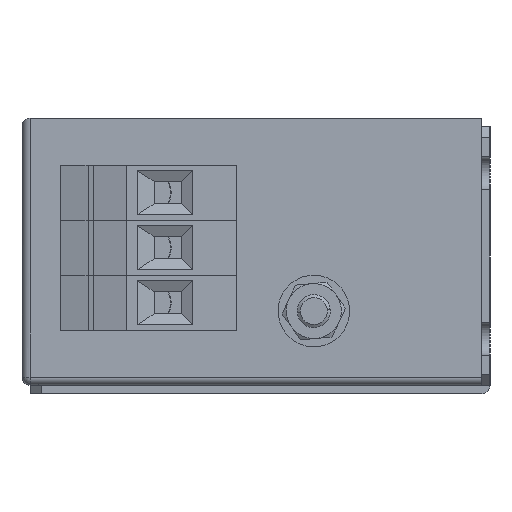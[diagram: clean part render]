
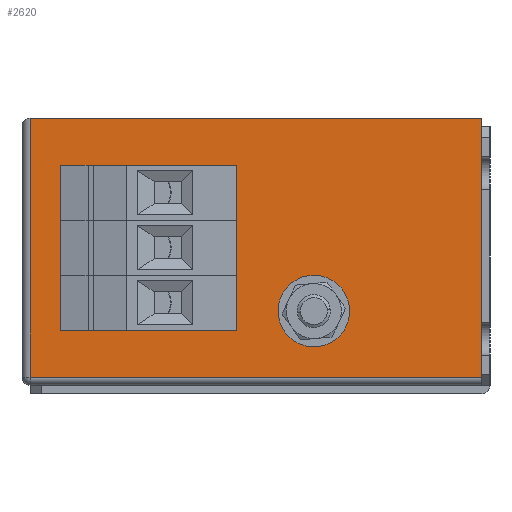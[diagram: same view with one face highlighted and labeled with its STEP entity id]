
A CAD part, left-side view. The second image highlights one B-rep face of the part: STEP entity #2620.
In plain terms, the highlighted planar face has unit normal (-1, 0, 0).
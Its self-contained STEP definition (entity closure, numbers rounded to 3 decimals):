
#2533 = EDGE_CURVE ( 'NONE', #2534, #2535, #7124, .T. ) ;
#2534 = VERTEX_POINT ( 'NONE', #7120 ) ;
#2535 = VERTEX_POINT ( 'NONE', #7119 ) ;
#2536 = EDGE_CURVE ( 'NONE', #2566, #2537, #7118, .T. ) ;
#2537 = VERTEX_POINT ( 'NONE', #7113 ) ;
#2549 = EDGE_CURVE ( 'NONE', #2550, #2606, #7152, .T. ) ;
#2550 = VERTEX_POINT ( 'NONE', #7148 ) ;
#2552 = EDGE_CURVE ( 'NONE', #2553, #2554, #7147, .T. ) ;
#2553 = VERTEX_POINT ( 'NONE', #7142 ) ;
#2554 = VERTEX_POINT ( 'NONE', #7141 ) ;
#2566 = VERTEX_POINT ( 'NONE', #7184 ) ;
#2571 = EDGE_CURVE ( 'NONE', #2572, #2573, #7179, .T. ) ;
#2572 = VERTEX_POINT ( 'NONE', #7175 ) ;
#2573 = VERTEX_POINT ( 'NONE', #7237 ) ;
#2584 = VERTEX_POINT ( 'NONE', #7216 ) ;
#2586 = EDGE_CURVE ( 'NONE', #2605, #2584, #7215, .T. ) ;
#2605 = VERTEX_POINT ( 'NONE', #7282 ) ;
#2606 = VERTEX_POINT ( 'NONE', #7281 ) ;
#2612 = ORIENTED_EDGE ( 'NONE', *, *, #2613, .F. ) ;
#2613 = EDGE_CURVE ( 'NONE', #2614, #2573, #7275, .T. ) ;
#2614 = VERTEX_POINT ( 'NONE', #7266 ) ;
#2615 = ORIENTED_EDGE ( 'NONE', *, *, #2616, .T. ) ;
#2616 = EDGE_CURVE ( 'NONE', #2614, #2605, #7264, .T. ) ;
#2617 = ORIENTED_EDGE ( 'NONE', *, *, #2586, .T. ) ;
#2620 = ADVANCED_FACE ( 'NONE', ( #7322, #7321, #7320, #7319, #7318 ), #7317, .F. ) ;
#2621 = EDGE_LOOP ( 'NONE', ( #2622, #2624 ) ) ;
#2622 = ORIENTED_EDGE ( 'NONE', *, *, #2623, .T. ) ;
#2623 = EDGE_CURVE ( 'NONE', #2554, #2553, #7312, .T. ) ;
#2624 = ORIENTED_EDGE ( 'NONE', *, *, #2552, .T. ) ;
#2625 = EDGE_LOOP ( 'NONE', ( #2626, #2628 ) ) ;
#2626 = ORIENTED_EDGE ( 'NONE', *, *, #2627, .T. ) ;
#2627 = EDGE_CURVE ( 'NONE', #2537, #2566, #7307, .T. ) ;
#2628 = ORIENTED_EDGE ( 'NONE', *, *, #2536, .T. ) ;
#2629 = EDGE_LOOP ( 'NONE', ( #2685, #2687 ) ) ;
#2671 = ORIENTED_EDGE ( 'NONE', *, *, #2672, .T. ) ;
#2672 = EDGE_CURVE ( 'NONE', #2584, #2572, #7408, .T. ) ;
#2673 = ORIENTED_EDGE ( 'NONE', *, *, #2571, .T. ) ;
#2685 = ORIENTED_EDGE ( 'NONE', *, *, #2686, .T. ) ;
#2686 = EDGE_CURVE ( 'NONE', #2606, #2550, #7436, .T. ) ;
#2687 = ORIENTED_EDGE ( 'NONE', *, *, #2549, .T. ) ;
#2688 = EDGE_LOOP ( 'NONE', ( #2689, #2691 ) ) ;
#2689 = ORIENTED_EDGE ( 'NONE', *, *, #2690, .T. ) ;
#2690 = EDGE_CURVE ( 'NONE', #2535, #2534, #7431, .T. ) ;
#2691 = ORIENTED_EDGE ( 'NONE', *, *, #2533, .T. ) ;
#2692 = EDGE_LOOP ( 'NONE', ( #2612, #2615, #2617, #2671, #2673 ) ) ;
#7113 = CARTESIAN_POINT ( 'NONE',  ( 15., 62., -16.1 ) ) ;
#7114 = DIRECTION ( 'NONE',  ( 0., 0., -1. ) ) ;
#7115 = DIRECTION ( 'NONE',  ( 1., 0., 0. ) ) ;
#7116 = CARTESIAN_POINT ( 'NONE',  ( 15., 62., -12. ) ) ;
#7117 = AXIS2_PLACEMENT_3D ( 'NONE', #7116, #7115, #7114 ) ;
#7118 = CIRCLE ( 'NONE', #7117, 4.1 ) ;
#7119 = CARTESIAN_POINT ( 'NONE',  ( 15., 62., -26.1 ) ) ;
#7120 = CARTESIAN_POINT ( 'NONE',  ( 15., 62., -17.9 ) ) ;
#7121 = DIRECTION ( 'NONE',  ( 0., 0., -1. ) ) ;
#7122 = DIRECTION ( 'NONE',  ( 1., 0., 0. ) ) ;
#7123 = AXIS2_PLACEMENT_3D ( 'NONE', #7129, #7122, #7121 ) ;
#7124 = CIRCLE ( 'NONE', #7123, 4.1 ) ;
#7129 = CARTESIAN_POINT ( 'NONE',  ( 15., 62., -22. ) ) ;
#7141 = CARTESIAN_POINT ( 'NONE',  ( 15., 32., -36.5 ) ) ;
#7142 = CARTESIAN_POINT ( 'NONE',  ( 15., 32., -30.5 ) ) ;
#7143 = DIRECTION ( 'NONE',  ( 0., 0., -1. ) ) ;
#7144 = DIRECTION ( 'NONE',  ( 1., 0., 0. ) ) ;
#7145 = CARTESIAN_POINT ( 'NONE',  ( 15., 32., -33.5 ) ) ;
#7146 = AXIS2_PLACEMENT_3D ( 'NONE', #7145, #7144, #7143 ) ;
#7147 = CIRCLE ( 'NONE', #7146, 3. ) ;
#7148 = CARTESIAN_POINT ( 'NONE',  ( 15., 62., -27.9 ) ) ;
#7149 = DIRECTION ( 'NONE',  ( 0., 0., -1. ) ) ;
#7150 = DIRECTION ( 'NONE',  ( 1., 0., 0. ) ) ;
#7151 = AXIS2_PLACEMENT_3D ( 'NONE', #7158, #7150, #7149 ) ;
#7152 = CIRCLE ( 'NONE', #7151, 4.1 ) ;
#7158 = CARTESIAN_POINT ( 'NONE',  ( 15., 62., -32. ) ) ;
#7175 = CARTESIAN_POINT ( 'NONE',  ( 15., 1.5, 0. ) ) ;
#7176 = DIRECTION ( 'NONE',  ( 0., 0., 1. ) ) ;
#7177 = VECTOR ( 'NONE', #7176, 1000. ) ;
#7178 = CARTESIAN_POINT ( 'NONE',  ( 15., 1.5, 1.5 ) ) ;
#7179 = LINE ( 'NONE', #7178, #7177 ) ;
#7184 = CARTESIAN_POINT ( 'NONE',  ( 15., 62., -7.9 ) ) ;
#7212 = DIRECTION ( 'NONE',  ( 0., -1., 0. ) ) ;
#7213 = VECTOR ( 'NONE', #7212, 1000. ) ;
#7214 = CARTESIAN_POINT ( 'NONE',  ( 15., 85., -45.5 ) ) ;
#7215 = LINE ( 'NONE', #7214, #7213 ) ;
#7216 = CARTESIAN_POINT ( 'NONE',  ( 15., 1.5, -45.5 ) ) ;
#7237 = CARTESIAN_POINT ( 'NONE',  ( 15., 1.5, 1.5 ) ) ;
#7261 = DIRECTION ( 'NONE',  ( 0., 0., -1. ) ) ;
#7262 = VECTOR ( 'NONE', #7261, 1000. ) ;
#7263 = CARTESIAN_POINT ( 'NONE',  ( 15., 83.5, 1.5 ) ) ;
#7264 = LINE ( 'NONE', #7263, #7262 ) ;
#7266 = CARTESIAN_POINT ( 'NONE',  ( 15., 83.5, 1.5 ) ) ;
#7267 = DIRECTION ( 'NONE',  ( 0., -1., 0. ) ) ;
#7268 = VECTOR ( 'NONE', #7267, 1000. ) ;
#7269 = CARTESIAN_POINT ( 'NONE',  ( 15., 85., 1.5 ) ) ;
#7275 = LINE ( 'NONE', #7269, #7268 ) ;
#7281 = CARTESIAN_POINT ( 'NONE',  ( 15., 62., -36.1 ) ) ;
#7282 = CARTESIAN_POINT ( 'NONE',  ( 15., 83.5, -45.5 ) ) ;
#7303 = DIRECTION ( 'NONE',  ( 0., 0., -1. ) ) ;
#7304 = DIRECTION ( 'NONE',  ( 1., 0., 0. ) ) ;
#7305 = CARTESIAN_POINT ( 'NONE',  ( 15., 62., -12. ) ) ;
#7306 = AXIS2_PLACEMENT_3D ( 'NONE', #7305, #7304, #7303 ) ;
#7307 = CIRCLE ( 'NONE', #7306, 4.1 ) ;
#7308 = DIRECTION ( 'NONE',  ( 0., 0., -1. ) ) ;
#7309 = DIRECTION ( 'NONE',  ( 1., 0., 0. ) ) ;
#7310 = CARTESIAN_POINT ( 'NONE',  ( 15., 32., -33.5 ) ) ;
#7311 = AXIS2_PLACEMENT_3D ( 'NONE', #7310, #7309, #7308 ) ;
#7312 = CIRCLE ( 'NONE', #7311, 3. ) ;
#7313 = DIRECTION ( 'NONE',  ( 0., 0., -1. ) ) ;
#7314 = DIRECTION ( 'NONE',  ( 1., 0., 0. ) ) ;
#7315 = CARTESIAN_POINT ( 'NONE',  ( 15., 85., 1.5 ) ) ;
#7316 = AXIS2_PLACEMENT_3D ( 'NONE', #7315, #7314, #7313 ) ;
#7317 = PLANE ( 'NONE',  #7316 ) ;
#7318 = FACE_OUTER_BOUND ( 'NONE', #2692, .T. ) ;
#7319 = FACE_BOUND ( 'NONE', #2688, .T. ) ;
#7320 = FACE_BOUND ( 'NONE', #2629, .T. ) ;
#7321 = FACE_BOUND ( 'NONE', #2625, .T. ) ;
#7322 = FACE_BOUND ( 'NONE', #2621, .T. ) ;
#7405 = DIRECTION ( 'NONE',  ( 0., 0., 1. ) ) ;
#7406 = VECTOR ( 'NONE', #7405, 1000. ) ;
#7407 = CARTESIAN_POINT ( 'NONE',  ( 15., 1.5, 1.5 ) ) ;
#7408 = LINE ( 'NONE', #7407, #7406 ) ;
#7427 = DIRECTION ( 'NONE',  ( 0., 0., -1. ) ) ;
#7428 = DIRECTION ( 'NONE',  ( 1., 0., 0. ) ) ;
#7429 = CARTESIAN_POINT ( 'NONE',  ( 15., 62., -22. ) ) ;
#7430 = AXIS2_PLACEMENT_3D ( 'NONE', #7429, #7428, #7427 ) ;
#7431 = CIRCLE ( 'NONE', #7430, 4.1 ) ;
#7432 = DIRECTION ( 'NONE',  ( 0., 0., -1. ) ) ;
#7433 = DIRECTION ( 'NONE',  ( 1., 0., 0. ) ) ;
#7434 = CARTESIAN_POINT ( 'NONE',  ( 15., 62., -32. ) ) ;
#7435 = AXIS2_PLACEMENT_3D ( 'NONE', #7434, #7433, #7432 ) ;
#7436 = CIRCLE ( 'NONE', #7435, 4.1 ) ;
